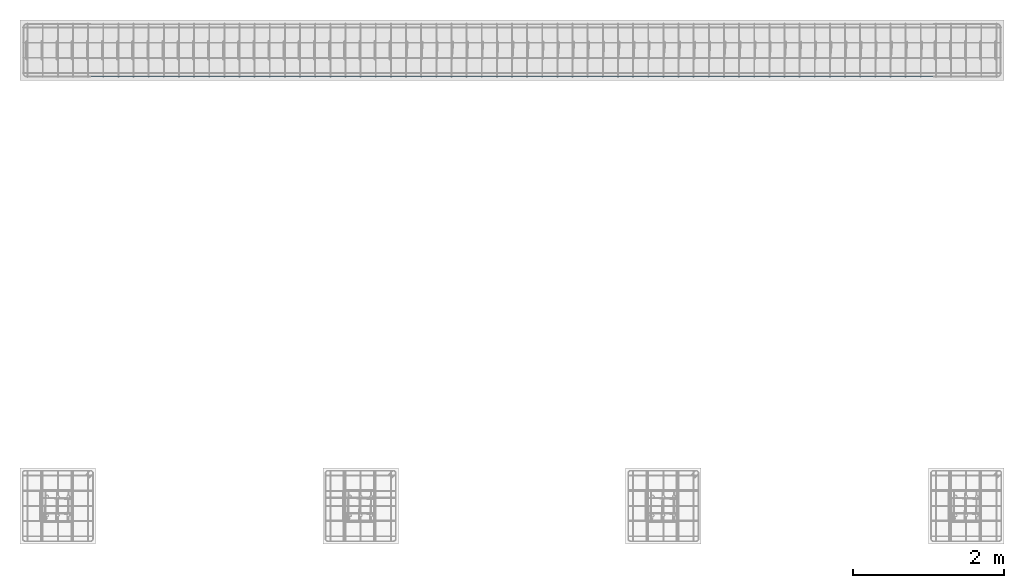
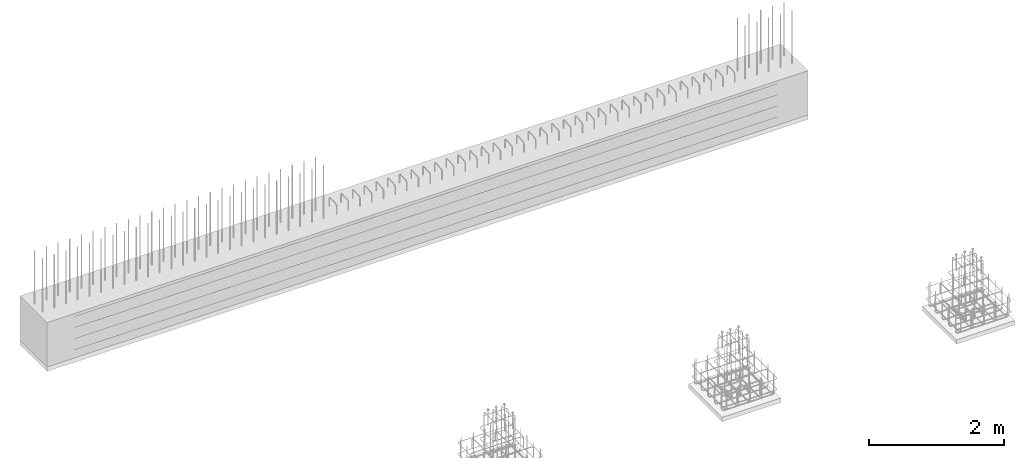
# One storey, part 6 of 12: 1 reinforcing bar.
"""IFC4X3_ADD2 building model written with IfcOpenShell, lengths in millimetres."""

from ifc_helpers import new_model, entity, si_unit, converted_unit, derived_unit, direction, frame, origin, place, context, subcontext, project, spatial, material, type_object, element, save


model = new_model("IFC4X3_ADD2")

# Units and contexts
model_context = context("Model", 3, precision=0.01, world=origin(), true_north=direction((6.123233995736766e-17, 1.0)))
plan_context = context("Plan", 3, precision=0.01, world=origin(), true_north=direction((6.123233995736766e-17, 1.0)))
body_context = subcontext(model_context, "Body", "Model", "MODEL_VIEW")
ifc_project = project(units=[si_unit("LENGTHUNIT", "METRE", prefix="MILLI"), converted_unit("PLANEANGLEUNIT", "DEGREE", entity("IfcPlaneAngleMeasure", 0.017453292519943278), si_unit("PLANEANGLEUNIT", "RADIAN"), dimensions=[0, 0, 0, 0, 0, 0, 0]), si_unit("AREAUNIT", "SQUARE_METRE"), si_unit("VOLUMEUNIT", "CUBIC_METRE"), derived_unit("THERMALTRANSMITTANCEUNIT", [(si_unit("MASSUNIT", "GRAM", prefix="KILO"), 1), (si_unit("THERMODYNAMICTEMPERATUREUNIT", "KELVIN"), -1), (si_unit("TIMEUNIT", "SECOND"), -3)]), derived_unit("USERDEFINED", [(si_unit("MASSUNIT", "GRAM", prefix="KILO"), 1), (si_unit("THERMODYNAMICTEMPERATUREUNIT", "KELVIN"), -1), (si_unit("TIMEUNIT", "SECOND"), -2)]), derived_unit("THERMALRESISTANCEUNIT", [(si_unit("MASSUNIT", "GRAM", prefix="KILO"), -1), (si_unit("TIMEUNIT", "SECOND"), 3), (si_unit("THERMODYNAMICTEMPERATUREUNIT", "KELVIN"), 1)]), si_unit("MASSUNIT", "GRAM", prefix="KILO"), derived_unit("MOMENTOFINERTIAUNIT", [(si_unit("LENGTHUNIT", "METRE"), 4)]), derived_unit("LINEARFORCEUNIT", [(si_unit("MASSUNIT", "GRAM", prefix="KILO"), 1), (si_unit("TIMEUNIT", "SECOND"), -2)]), derived_unit("WARPINGCONSTANTUNIT", [(si_unit("LENGTHUNIT", "METRE"), 6)]), si_unit("PRESSUREUNIT", "PASCAL"), derived_unit("MASSDENSITYUNIT", [(si_unit("MASSUNIT", "GRAM", prefix="KILO"), 1), (si_unit("LENGTHUNIT", "METRE"), -3)]), derived_unit("MODULUSOFELASTICITYUNIT", [(si_unit("MASSUNIT", "GRAM", prefix="KILO"), 1), (si_unit("TIMEUNIT", "SECOND"), -2), (si_unit("LENGTHUNIT", "METRE"), -1)]), derived_unit("THERMALEXPANSIONCOEFFICIENTUNIT", [(si_unit("THERMODYNAMICTEMPERATUREUNIT", "KELVIN"), -1)]), derived_unit("VAPORPERMEABILITYUNIT", [(si_unit("LENGTHUNIT", "METRE"), -1), (si_unit("TIMEUNIT", "SECOND"), 1)]), derived_unit("USERDEFINED", [(si_unit("MASSUNIT", "GRAM", prefix="KILO"), 1), (si_unit("TIMEUNIT", "SECOND"), -3), (si_unit("LENGTHUNIT", "METRE"), 3), (si_unit("ELECTRICCURRENTUNIT", "AMPERE"), -2)]), derived_unit("SPECIFICHEATCAPACITYUNIT", [(si_unit("THERMODYNAMICTEMPERATUREUNIT", "KELVIN"), -1), (si_unit("TIMEUNIT", "SECOND"), -2), (si_unit("LENGTHUNIT", "METRE"), 2)]), derived_unit("THERMALCONDUCTANCEUNIT", [(si_unit("MASSUNIT", "GRAM", prefix="KILO"), 1), (si_unit("THERMODYNAMICTEMPERATUREUNIT", "KELVIN"), -1), (si_unit("TIMEUNIT", "SECOND"), -3), (si_unit("LENGTHUNIT", "METRE"), 1)])], contexts=[model_context, plan_context])

# Site, building, storey
site_placement = place(None, origin())
site = spatial("IfcSite", under=ifc_project, at=site_placement, Name="Default", CompositionType="ELEMENT")
building_placement = place(site_placement, origin())
building = spatial("IfcBuilding", under=site, at=building_placement, Name="Complex structure", CompositionType="ELEMENT")
storey_placement = place(building_placement, frame((0.0, 0.0, -1200.0)))
storey = spatial("IfcBuildingStorey", under=building, at=storey_placement, Name="Level -03", CompositionType="ELEMENT", Elevation=-1200.0)

# Reinforcing bar
ifc_material = material(Name="Steel Rebar - B500A, B or C", Category="Unassigned")
reinforcing_bar_type = type_object("IfcReinforcingBarType", Name="Rebar Bar:10mm", PredefinedType="NOTDEFINED")
reinforcing_bar_placement = place(storey_placement, origin())
element("IfcReinforcingBar", 1, at=reinforcing_bar_placement, inside=storey, type_object=reinforcing_bar_type, material=ifc_material, Name="Rebar Bar:10mm : Shape 00", ObjectType="Rebar Bar:10mm", context=body_context, shape_type="AdvancedSweptSolid", body=[
    entity("IfcSweptDiskSolid", entity("IfcCompositeCurve", [entity("IfcCompositeCurveSegment", "CONTINUOUS", True, entity("IfcPolyline", [entity("IfcCartesianPoint", [-13141.260887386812, 4395.483296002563, 100.0]), entity("IfcCartesianPoint", [-1141.2608873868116, 4395.483296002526, 100.0])]))], False), 5.0, None, 0.0, 1.0),
    entity("IfcSweptDiskSolid", entity("IfcCompositeCurve", [entity("IfcCompositeCurveSegment", "CONTINUOUS", True, entity("IfcPolyline", [entity("IfcCartesianPoint", [-13141.260887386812, 4395.483296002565, 300.0]), entity("IfcCartesianPoint", [-1141.2608873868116, 4395.483296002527, 300.0])]))], False), 5.0, None, 0.0, 1.0),
    entity("IfcSweptDiskSolid", entity("IfcCompositeCurve", [entity("IfcCompositeCurveSegment", "CONTINUOUS", True, entity("IfcPolyline", [entity("IfcCartesianPoint", [-13141.260887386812, 4395.483296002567, 500.0]), entity("IfcCartesianPoint", [-1141.2608873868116, 4395.483296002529, 500.0])]))], False), 5.0, None, 0.0, 1.0),
    entity("IfcSweptDiskSolid", entity("IfcCompositeCurve", [entity("IfcCompositeCurveSegment", "CONTINUOUS", True, entity("IfcPolyline", [entity("IfcCartesianPoint", [-13141.260887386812, 4395.483296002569, 700.0]), entity("IfcCartesianPoint", [-1141.2608873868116, 4395.483296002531, 700.0])]))], False), 5.0, None, 0.0, 1.0),
])

save(model, "model.ifc")
